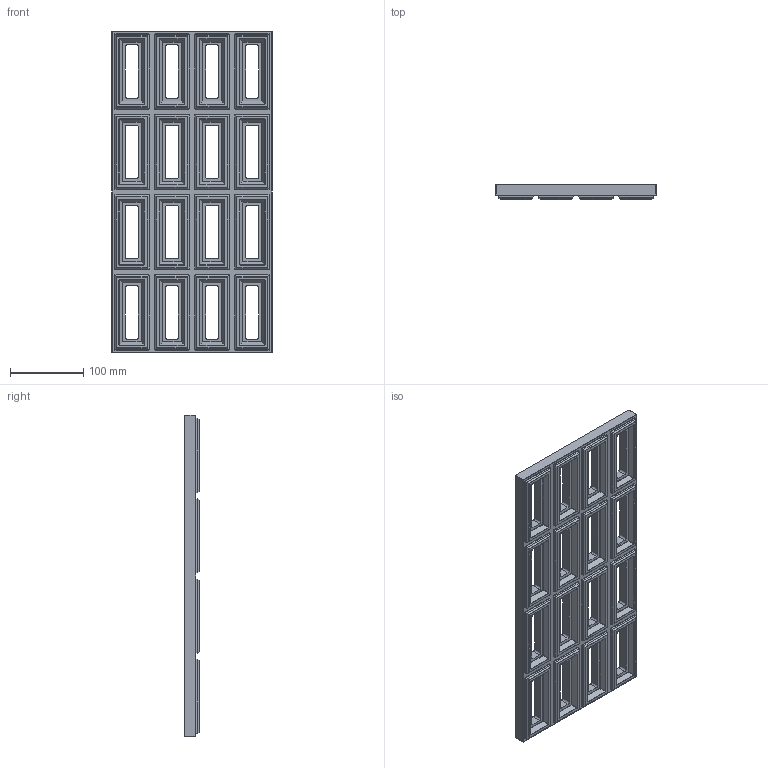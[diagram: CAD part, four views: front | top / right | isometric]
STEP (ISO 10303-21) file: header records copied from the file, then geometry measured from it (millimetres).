
FILE_DESCRIPTION(/* description */ (''),/* implementation_level */ '2;1');
FILE_NAME(/* name */ 'CI4401~2',/* time_stamp */ '2025-06-17T09:24:05+02:00',/* author */ (''),/* organization */ (''),/* preprocessor_version */ 'ST-DEVELOPER v15',/* originating_system */ '',/* authorisation */ '');
FILE_SCHEMA (('AUTOMOTIVE_DESIGN'));
Length unit declared in the file: millimetre
Products named in the file (1): Document
Bounding box: 220 x 20 x 440 mm (x, y, z)
Volume: 1216449 mm3; surface area: 237715.6 mm2
Topology: 1 solids, 1 shells, 1352 faces, 3384 edges, 1924 vertices
Faces by surface type: bspline 1028, plane 324
Entity records: 56795 total; most frequent: CARTESIAN_POINT 38381, ORIENTED_EDGE 6504, EDGE_CURVE 3252, VERTEX_POINT 1924, B_SPLINE_CURVE_WITH_KNOTS 1564, EDGE_LOOP 1406, ADVANCED_FACE 1352, FACE_OUTER_BOUND 1352
